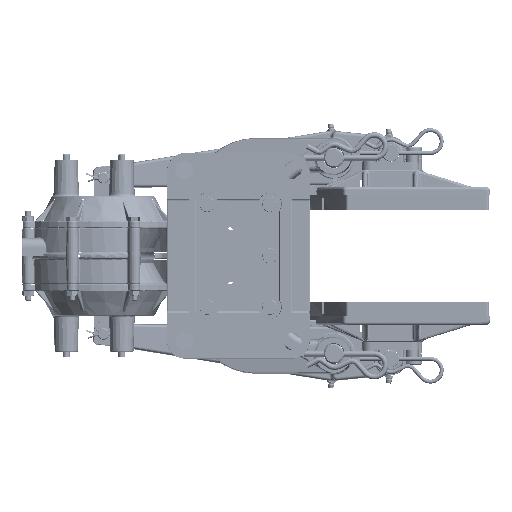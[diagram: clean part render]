
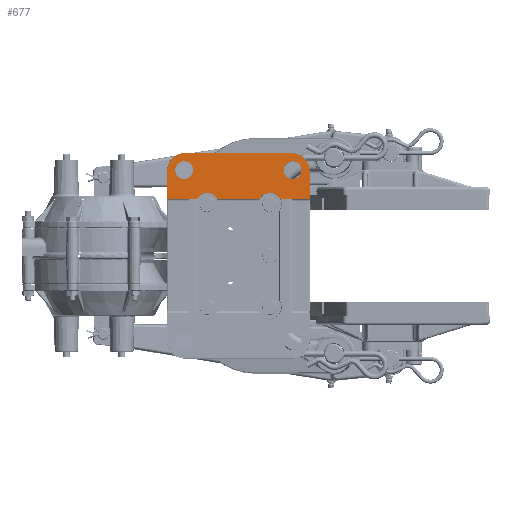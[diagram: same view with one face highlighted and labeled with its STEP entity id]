
A CAD part, front view. The second image highlights one B-rep face of the part: STEP entity #677.
In plain terms, the highlighted planar face has unit normal (0, -1, 0).
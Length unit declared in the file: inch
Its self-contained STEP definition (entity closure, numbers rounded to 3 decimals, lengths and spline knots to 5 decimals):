
#187 = EDGE_CURVE ( 'NONE', #67832, #280099, #272619, .T. ) ;
#677 = ADVANCED_FACE ( 'NONE', ( #236039, #127810, #312692 ), #296452, .T. ) ;
#1272 = LINE ( 'NONE', #93526, #145749 ) ;
#2103 = CARTESIAN_POINT ( 'NONE',  ( -1.21574, -9.5, 2.25 ) ) ;
#2855 = ORIENTED_EDGE ( 'NONE', *, *, #331912, .T. ) ;
#5139 = EDGE_CURVE ( 'NONE', #213683, #87970, #135276, .T. ) ;
#5368 = VERTEX_POINT ( 'NONE', #338256 ) ;
#7660 = EDGE_LOOP ( 'NONE', ( #124087 ) ) ;
#14257 = CARTESIAN_POINT ( 'NONE',  ( -0.24574, -9.5, 3.72 ) ) ;
#18795 = AXIS2_PLACEMENT_3D ( 'NONE', #35727, #237572, #64599 ) ;
#21474 = ORIENTED_EDGE ( 'NONE', *, *, #77972, .T. ) ;
#21862 = DIRECTION ( 'NONE',  ( 1., 0., 0. ) ) ;
#31154 = DIRECTION ( 'NONE',  ( 0., 0., -1. ) ) ;
#33221 = DIRECTION ( 'NONE',  ( -1., 0., 0. ) ) ;
#35727 = CARTESIAN_POINT ( 'NONE',  ( -4.93574, -9.5, 3.72 ) ) ;
#36043 = CIRCLE ( 'NONE', #235944, 0.50873 ) ;
#37935 = VECTOR ( 'NONE', #101128, 39.37008 ) ;
#40109 = ORIENTED_EDGE ( 'NONE', *, *, #128025, .T. ) ;
#42147 = CARTESIAN_POINT ( 'NONE',  ( -4.9657, -9.5, 3.75 ) ) ;
#42191 = EDGE_CURVE ( 'NONE', #254278, #254278, #150426, .T. ) ;
#43243 = EDGE_CURVE ( 'NONE', #100821, #100821, #153369, .T. ) ;
#43285 = DIRECTION ( 'NONE',  ( 0., 0., -1. ) ) ;
#44112 = CARTESIAN_POINT ( 'NONE',  ( -3.96574, -9.5, 2.25 ) ) ;
#44614 = VECTOR ( 'NONE', #21862, 39.37008 ) ;
#64599 = DIRECTION ( 'NONE',  ( 0., 0., -1. ) ) ;
#67832 = VERTEX_POINT ( 'NONE', #278188 ) ;
#68315 = EDGE_CURVE ( 'NONE', #194949, #280099, #121715, .T. ) ;
#69601 = CARTESIAN_POINT ( 'NONE',  ( -0.77771, -9.5, 2.50873 ) ) ;
#71091 = DIRECTION ( 'NONE',  ( 0., 0., -1. ) ) ;
#72048 = CARTESIAN_POINT ( 'NONE',  ( -1.21574, -9.5, 2.50873 ) ) ;
#72813 = VERTEX_POINT ( 'NONE', #126544 ) ;
#73053 = DIRECTION ( 'NONE',  ( 0., 0., -1. ) ) ;
#73299 = LINE ( 'NONE', #206110, #226858 ) ;
#73967 = EDGE_CURVE ( 'NONE', #169092, #72813, #175998, .T. ) ;
#77972 = EDGE_CURVE ( 'NONE', #213683, #5368, #342363, .T. ) ;
#86606 = CARTESIAN_POINT ( 'NONE',  ( 0.52553, -9.5, 0. ) ) ;
#87148 = CARTESIAN_POINT ( 'NONE',  ( -4.93574, -9.5, 4.49127 ) ) ;
#87970 = VERTEX_POINT ( 'NONE', #87148 ) ;
#92602 = CARTESIAN_POINT ( 'NONE',  ( -3.52771, -9.5, 2.50873 ) ) ;
#93526 = CARTESIAN_POINT ( 'NONE',  ( -1.21574, -9.5, 2.50873 ) ) ;
#95852 = CARTESIAN_POINT ( 'NONE',  ( -6.03508, -9.5, -4.6421 ) ) ;
#96127 = EDGE_CURVE ( 'NONE', #311863, #194949, #112262, .T. ) ;
#100821 = VERTEX_POINT ( 'NONE', #201688 ) ;
#101128 = DIRECTION ( 'NONE',  ( 1., 0., 0. ) ) ;
#112262 = LINE ( 'NONE', #338566, #44614 ) ;
#121715 = LINE ( 'NONE', #86606, #306725 ) ;
#124087 = ORIENTED_EDGE ( 'NONE', *, *, #43243, .F. ) ;
#124910 = DIRECTION ( 'NONE',  ( 0., 0., -1. ) ) ;
#125745 = AXIS2_PLACEMENT_3D ( 'NONE', #44112, #245994, #73053 ) ;
#126544 = CARTESIAN_POINT ( 'NONE',  ( -4.40376, -9.5, 2.50873 ) ) ;
#127810 = FACE_BOUND ( 'NONE', #7660, .T. ) ;
#128025 = EDGE_CURVE ( 'NONE', #180167, #311863, #36043, .T. ) ;
#133413 = DIRECTION ( 'NONE',  ( 0., -1., 0. ) ) ;
#135276 = CIRCLE ( 'NONE', #18795, 0.77127 ) ;
#145749 = VECTOR ( 'NONE', #207183, 39.37008 ) ;
#147551 = AXIS2_PLACEMENT_3D ( 'NONE', #306213, #133413, #335222 ) ;
#150426 = CIRCLE ( 'NONE', #147551, 0.39 ) ;
#153369 = CIRCLE ( 'NONE', #324351, 0.3906 ) ;
#157954 = EDGE_LOOP ( 'NONE', ( #240560 ) ) ;
#164408 = CARTESIAN_POINT ( 'NONE',  ( -5.70701, -9.5, 3.72 ) ) ;
#169092 = VERTEX_POINT ( 'NONE', #92602 ) ;
#172571 = CARTESIAN_POINT ( 'NONE',  ( -0.2157, -9.5, 3.36 ) ) ;
#173021 = ORIENTED_EDGE ( 'NONE', *, *, #252890, .T. ) ;
#173615 = DIRECTION ( 'NONE',  ( 0., 0., 1. ) ) ;
#175998 = CIRCLE ( 'NONE', #125745, 0.50873 ) ;
#180167 = VERTEX_POINT ( 'NONE', #198845 ) ;
#182319 = LINE ( 'NONE', #72048, #37935 ) ;
#187746 = ORIENTED_EDGE ( 'NONE', *, *, #68315, .T. ) ;
#188945 = VECTOR ( 'NONE', #211985, 39.37008 ) ;
#194949 = VERTEX_POINT ( 'NONE', #210604 ) ;
#198845 = CARTESIAN_POINT ( 'NONE',  ( -1.65376, -9.5, 2.50873 ) ) ;
#201688 = CARTESIAN_POINT ( 'NONE',  ( -4.9657, -9.5, 3.3594 ) ) ;
#204039 = DIRECTION ( 'NONE',  ( 0., 1., 0. ) ) ;
#206110 = CARTESIAN_POINT ( 'NONE',  ( -1.21574, -9.5, 4.49127 ) ) ;
#207183 = DIRECTION ( 'NONE',  ( 1., 0., 0. ) ) ;
#208411 = CARTESIAN_POINT ( 'NONE',  ( 0.52553, -9.5, 3.72 ) ) ;
#210604 = CARTESIAN_POINT ( 'NONE',  ( 0.52553, -9.5, 2.50873 ) ) ;
#211985 = DIRECTION ( 'NONE',  ( 0., 0., -1. ) ) ;
#213683 = VERTEX_POINT ( 'NONE', #164408 ) ;
#216137 = DIRECTION ( 'NONE',  ( 0., 1., 0. ) ) ;
#226858 = VECTOR ( 'NONE', #33221, 39.37008 ) ;
#235944 = AXIS2_PLACEMENT_3D ( 'NONE', #2103, #204039, #31154 ) ;
#236039 = FACE_BOUND ( 'NONE', #157954, .T. ) ;
#237572 = DIRECTION ( 'NONE',  ( 0., 1., 0. ) ) ;
#239696 = EDGE_CURVE ( 'NONE', #5368, #72813, #1272, .T. ) ;
#240434 = ORIENTED_EDGE ( 'NONE', *, *, #239696, .T. ) ;
#240560 = ORIENTED_EDGE ( 'NONE', *, *, #42191, .F. ) ;
#242057 = ORIENTED_EDGE ( 'NONE', *, *, #96127, .T. ) ;
#243491 = CARTESIAN_POINT ( 'NONE',  ( -5.70701, -9.5, 0. ) ) ;
#244041 = DIRECTION ( 'NONE',  ( 0., -1., 0. ) ) ;
#244372 = AXIS2_PLACEMENT_3D ( 'NONE', #14257, #216137, #43285 ) ;
#245994 = DIRECTION ( 'NONE',  ( 0., -1., 0. ) ) ;
#247714 = EDGE_LOOP ( 'NONE', ( #2855, #40109, #242057, #187746, #332928, #173021, #340399, #21474, #240434, #326208 ) ) ;
#252890 = EDGE_CURVE ( 'NONE', #67832, #87970, #73299, .T. ) ;
#254278 = VERTEX_POINT ( 'NONE', #172571 ) ;
#272619 = CIRCLE ( 'NONE', #244372, 0.77127 ) ;
#278188 = CARTESIAN_POINT ( 'NONE',  ( -0.24574, -9.5, 4.49127 ) ) ;
#280099 = VERTEX_POINT ( 'NONE', #208411 ) ;
#296452 = PLANE ( 'NONE',  #365294 ) ;
#297712 = DIRECTION ( 'NONE',  ( 0., -1., 0. ) ) ;
#306213 = CARTESIAN_POINT ( 'NONE',  ( -0.2157, -9.5, 3.75 ) ) ;
#306725 = VECTOR ( 'NONE', #173615, 39.37008 ) ;
#311863 = VERTEX_POINT ( 'NONE', #69601 ) ;
#312692 = FACE_OUTER_BOUND ( 'NONE', #247714, .T. ) ;
#324351 = AXIS2_PLACEMENT_3D ( 'NONE', #42147, #244041, #71091 ) ;
#326208 = ORIENTED_EDGE ( 'NONE', *, *, #73967, .F. ) ;
#331912 = EDGE_CURVE ( 'NONE', #169092, #180167, #182319, .T. ) ;
#332928 = ORIENTED_EDGE ( 'NONE', *, *, #187, .F. ) ;
#335222 = DIRECTION ( 'NONE',  ( 0., 0., -1. ) ) ;
#338256 = CARTESIAN_POINT ( 'NONE',  ( -5.70701, -9.5, 2.50873 ) ) ;
#338566 = CARTESIAN_POINT ( 'NONE',  ( -1.21574, -9.5, 2.50873 ) ) ;
#340399 = ORIENTED_EDGE ( 'NONE', *, *, #5139, .F. ) ;
#342363 = LINE ( 'NONE', #243491, #188945 ) ;
#365294 = AXIS2_PLACEMENT_3D ( 'NONE', #95852, #297712, #124910 ) ;
